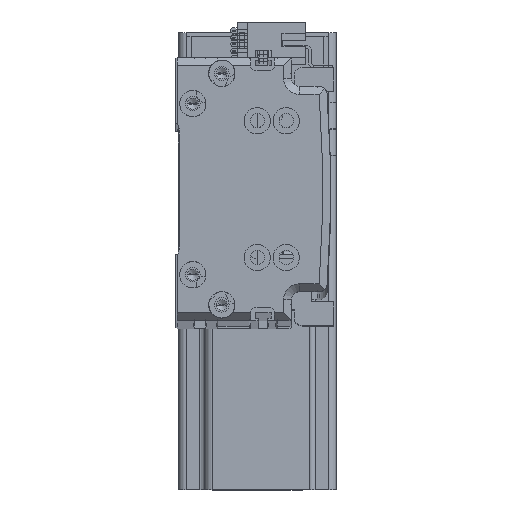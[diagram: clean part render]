
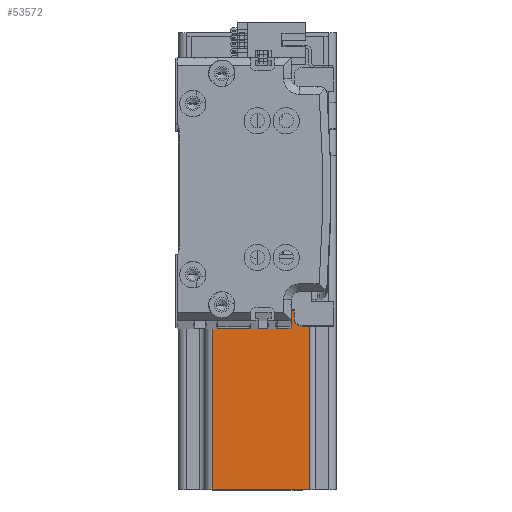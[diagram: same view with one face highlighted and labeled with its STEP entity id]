
A CAD part, top view. The second image highlights one B-rep face of the part: STEP entity #53572.
In plain terms, the highlighted planar face has unit normal (0, 0, 1) as drawn and (-1, 0, 0) by its records, which use the part's own axes.
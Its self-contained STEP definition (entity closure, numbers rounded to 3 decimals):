
#1100 = PLANE ( 'NONE',  #18137 ) ;
#1731 = EDGE_CURVE ( 'NONE', #22190, #53179, #30786, .T. ) ;
#2749 = CARTESIAN_POINT ( 'NONE',  ( -30., 20., 137. ) ) ;
#4251 = ORIENTED_EDGE ( 'NONE', *, *, #51132, .F. ) ;
#4714 = LINE ( 'NONE', #62800, #35071 ) ;
#6448 = EDGE_CURVE ( 'NONE', #26974, #39985, #49923, .T. ) ;
#7496 = DIRECTION ( 'NONE',  ( 0., 0., 1. ) ) ;
#7505 = CARTESIAN_POINT ( 'NONE',  ( -30., 27., 0. ) ) ;
#7724 = DIRECTION ( 'NONE',  ( 0., 1., 0. ) ) ;
#7840 = VERTEX_POINT ( 'NONE', #39373 ) ;
#8347 = ORIENTED_EDGE ( 'NONE', *, *, #1731, .T. ) ;
#8762 = CARTESIAN_POINT ( 'NONE',  ( -30., -27., 0. ) ) ;
#9059 = EDGE_CURVE ( 'NONE', #40738, #53179, #4714, .T. ) ;
#11523 = CARTESIAN_POINT ( 'NONE',  ( -30., -27., 10. ) ) ;
#11616 = ORIENTED_EDGE ( 'NONE', *, *, #29543, .T. ) ;
#16892 = VECTOR ( 'NONE', #27836, 1000. ) ;
#18137 = AXIS2_PLACEMENT_3D ( 'NONE', #20669, #54538, #25541 ) ;
#18544 = LINE ( 'NONE', #45624, #29950 ) ;
#19575 = LINE ( 'NONE', #36760, #43745 ) ;
#20669 = CARTESIAN_POINT ( 'NONE',  ( -30., -30., 137. ) ) ;
#21551 = LINE ( 'NONE', #47666, #60207 ) ;
#22190 = VERTEX_POINT ( 'NONE', #8762 ) ;
#22753 = CARTESIAN_POINT ( 'NONE',  ( -30., -17., 137. ) ) ;
#22958 = CARTESIAN_POINT ( 'NONE',  ( -30., 27., 137. ) ) ;
#24189 = VECTOR ( 'NONE', #62379, 1000. ) ;
#25430 = EDGE_CURVE ( 'NONE', #38408, #22190, #18544, .T. ) ;
#25541 = DIRECTION ( 'NONE',  ( 0., 0., -1. ) ) ;
#25602 = CARTESIAN_POINT ( 'NONE',  ( -30., -17., 10. ) ) ;
#26974 = VERTEX_POINT ( 'NONE', #53209 ) ;
#27621 = ORIENTED_EDGE ( 'NONE', *, *, #47235, .T. ) ;
#27836 = DIRECTION ( 'NONE',  ( 0., 0., -1. ) ) ;
#27924 = ORIENTED_EDGE ( 'NONE', *, *, #31340, .T. ) ;
#28514 = CARTESIAN_POINT ( 'NONE',  ( -30., 20., 10. ) ) ;
#28942 = DIRECTION ( 'NONE',  ( 0., -1., 0. ) ) ;
#29277 = VECTOR ( 'NONE', #7496, 1000. ) ;
#29543 = EDGE_CURVE ( 'NONE', #40738, #59643, #36266, .T. ) ;
#29950 = VECTOR ( 'NONE', #40951, 1000. ) ;
#30786 = LINE ( 'NONE', #36536, #29277 ) ;
#31340 = EDGE_CURVE ( 'NONE', #7840, #38408, #55563, .T. ) ;
#35071 = VECTOR ( 'NONE', #28942, 1000. ) ;
#35520 = EDGE_LOOP ( 'NONE', ( #39155, #11616, #4251, #54942, #27621, #27924, #42462, #8347 ) ) ;
#36266 = LINE ( 'NONE', #22753, #62070 ) ;
#36536 = CARTESIAN_POINT ( 'NONE',  ( -30., -27., 137. ) ) ;
#36760 = CARTESIAN_POINT ( 'NONE',  ( -30., 30., 10. ) ) ;
#37774 = FACE_OUTER_BOUND ( 'NONE', #35520, .T. ) ;
#38408 = VERTEX_POINT ( 'NONE', #7505 ) ;
#39155 = ORIENTED_EDGE ( 'NONE', *, *, #9059, .F. ) ;
#39373 = CARTESIAN_POINT ( 'NONE',  ( -30., 27., 10. ) ) ;
#39985 = VERTEX_POINT ( 'NONE', #2749 ) ;
#40738 = VERTEX_POINT ( 'NONE', #25602 ) ;
#40951 = DIRECTION ( 'NONE',  ( 0., -1., 0. ) ) ;
#42462 = ORIENTED_EDGE ( 'NONE', *, *, #25430, .T. ) ;
#42775 = DIRECTION ( 'NONE',  ( 0., -1., 0. ) ) ;
#43745 = VECTOR ( 'NONE', #7724, 1000. ) ;
#45624 = CARTESIAN_POINT ( 'NONE',  ( -30., -30., 0. ) ) ;
#46248 = CARTESIAN_POINT ( 'NONE',  ( -30., -17., 137. ) ) ;
#47235 = EDGE_CURVE ( 'NONE', #26974, #7840, #19575, .T. ) ;
#47666 = CARTESIAN_POINT ( 'NONE',  ( -30., -30., 137. ) ) ;
#49923 = LINE ( 'NONE', #28514, #24189 ) ;
#51132 = EDGE_CURVE ( 'NONE', #39985, #59643, #21551, .T. ) ;
#53179 = VERTEX_POINT ( 'NONE', #11523 ) ;
#53209 = CARTESIAN_POINT ( 'NONE',  ( -30., 20., 10. ) ) ;
#53572 = ADVANCED_FACE ( 'NONE', ( #37774 ), #1100, .F. ) ;
#54538 = DIRECTION ( 'NONE',  ( 1., 0., 0. ) ) ;
#54942 = ORIENTED_EDGE ( 'NONE', *, *, #6448, .F. ) ;
#55563 = LINE ( 'NONE', #22958, #16892 ) ;
#57062 = DIRECTION ( 'NONE',  ( 0., 0., 1. ) ) ;
#59643 = VERTEX_POINT ( 'NONE', #46248 ) ;
#60207 = VECTOR ( 'NONE', #42775, 1000. ) ;
#62070 = VECTOR ( 'NONE', #57062, 1000. ) ;
#62379 = DIRECTION ( 'NONE',  ( 0., 0., 1. ) ) ;
#62800 = CARTESIAN_POINT ( 'NONE',  ( -30., -30., 10. ) ) ;
